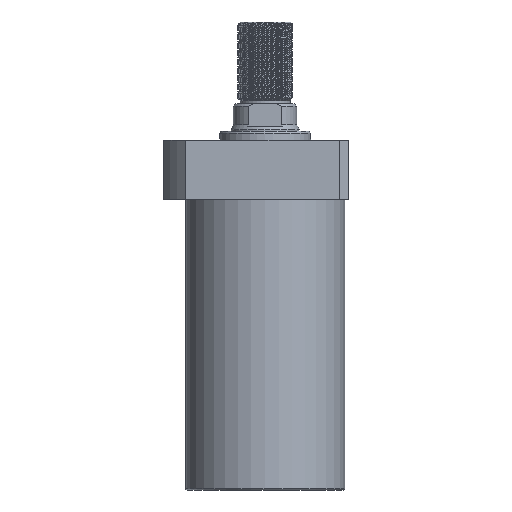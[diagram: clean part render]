
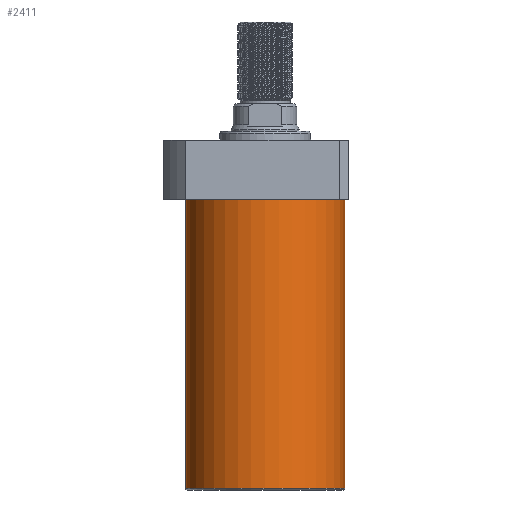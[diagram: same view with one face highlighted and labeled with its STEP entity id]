
A CAD part, front view. The second image highlights one B-rep face of the part: STEP entity #2411.
In plain terms, the highlighted cylindrical face has radius 52.5 mm (diameter 105 mm), a partial arc.
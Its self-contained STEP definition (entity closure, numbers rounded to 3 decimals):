
#6 = CARTESIAN_POINT ( 'NONE',  ( -52.5, 0., -19.5 ) ) ;
#235 = VERTEX_POINT ( 'NONE', #4240 ) ;
#345 = CARTESIAN_POINT ( 'NONE',  ( 52.5, 0., -19.5 ) ) ;
#519 = ORIENTED_EDGE ( 'NONE', *, *, #5522, .F. ) ;
#776 = CARTESIAN_POINT ( 'NONE',  ( -52.5, 0., -211.5 ) ) ;
#931 = LINE ( 'NONE', #1601, #7421 ) ;
#958 = ORIENTED_EDGE ( 'NONE', *, *, #5712, .T. ) ;
#1114 = CARTESIAN_POINT ( 'NONE',  ( 0., 0., -19.5 ) ) ;
#1327 = LINE ( 'NONE', #776, #6362 ) ;
#1601 = CARTESIAN_POINT ( 'NONE',  ( 52.5, 0., -211.5 ) ) ;
#1726 = DIRECTION ( 'NONE',  ( 1., 0., 0. ) ) ;
#1819 = EDGE_LOOP ( 'NONE', ( #519, #5949, #2394, #958 ) ) ;
#1823 = DIRECTION ( 'NONE',  ( 0., 0., 1. ) ) ;
#1924 = AXIS2_PLACEMENT_3D ( 'NONE', #1114, #5501, #1726 ) ;
#2120 = EDGE_CURVE ( 'NONE', #5616, #235, #4862, .T. ) ;
#2394 = ORIENTED_EDGE ( 'NONE', *, *, #4050, .T. ) ;
#2411 = ADVANCED_FACE ( 'NONE', ( #3236 ), #8087, .T. ) ;
#2441 = DIRECTION ( 'NONE',  ( 1., 0., 0. ) ) ;
#2760 = CARTESIAN_POINT ( 'NONE',  ( 0., 0., -210.5 ) ) ;
#3212 = AXIS2_PLACEMENT_3D ( 'NONE', #2760, #7166, #3378 ) ;
#3236 = FACE_OUTER_BOUND ( 'NONE', #1819, .T. ) ;
#3378 = DIRECTION ( 'NONE',  ( -1., 0., 0. ) ) ;
#3521 = DIRECTION ( 'NONE',  ( 0., 0., 1. ) ) ;
#4050 = EDGE_CURVE ( 'NONE', #235, #6826, #931, .T. ) ;
#4240 = CARTESIAN_POINT ( 'NONE',  ( 52.5, 0., -210.5 ) ) ;
#4862 = CIRCLE ( 'NONE', #3212, 52.5 ) ;
#5152 = DIRECTION ( 'NONE',  ( 0., 0., 1. ) ) ;
#5501 = DIRECTION ( 'NONE',  ( 0., 0., -1. ) ) ;
#5522 = EDGE_CURVE ( 'NONE', #5616, #7133, #1327, .T. ) ;
#5551 = CARTESIAN_POINT ( 'NONE',  ( 0., 0., -211.5 ) ) ;
#5616 = VERTEX_POINT ( 'NONE', #7754 ) ;
#5712 = EDGE_CURVE ( 'NONE', #6826, #7133, #5970, .T. ) ;
#5949 = ORIENTED_EDGE ( 'NONE', *, *, #2120, .T. ) ;
#5970 = CIRCLE ( 'NONE', #1924, 52.5 ) ;
#6362 = VECTOR ( 'NONE', #5152, 1000. ) ;
#6447 = AXIS2_PLACEMENT_3D ( 'NONE', #5551, #1823, #2441 ) ;
#6826 = VERTEX_POINT ( 'NONE', #345 ) ;
#7133 = VERTEX_POINT ( 'NONE', #6 ) ;
#7166 = DIRECTION ( 'NONE',  ( 0., 0., 1. ) ) ;
#7421 = VECTOR ( 'NONE', #3521, 1000. ) ;
#7754 = CARTESIAN_POINT ( 'NONE',  ( -52.5, 0., -210.5 ) ) ;
#8087 = CYLINDRICAL_SURFACE ( 'NONE', #6447, 52.5 ) ;
